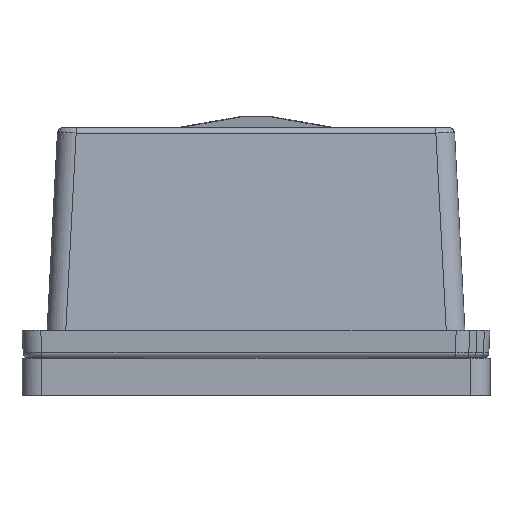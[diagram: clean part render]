
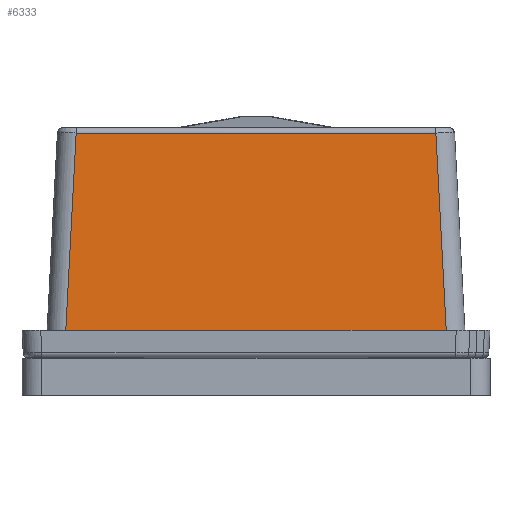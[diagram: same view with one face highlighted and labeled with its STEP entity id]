
A CAD part, left-side view. The second image highlights one B-rep face of the part: STEP entity #6333.
In plain terms, the highlighted planar face has unit normal (-0.999, 0, 0.052).
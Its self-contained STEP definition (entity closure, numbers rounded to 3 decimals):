
#1017=FACE_OUTER_BOUND('',#1417,.T.);
#1417=EDGE_LOOP('',(#5171,#5172,#5173,#5174));
#1862=LINE('',#13908,#2257);
#1893=LINE('',#15264,#2288);
#1894=LINE('',#15267,#2289);
#1895=LINE('',#15268,#2290);
#2257=VECTOR('',#7996,1.);
#2288=VECTOR('',#8195,10.);
#2289=VECTOR('',#8198,1.);
#2290=VECTOR('',#8199,1.);
#2778=VERTEX_POINT('',#13890);
#2780=VERTEX_POINT('',#13900);
#2841=VERTEX_POINT('',#15262);
#2842=VERTEX_POINT('',#15266);
#3557=EDGE_CURVE('',#2780,#2778,#1862,.F.);
#3662=EDGE_CURVE('',#2841,#2778,#1893,.F.);
#3663=EDGE_CURVE('',#2842,#2780,#1894,.F.);
#3664=EDGE_CURVE('',#2841,#2842,#1895,.T.);
#5171=ORIENTED_EDGE('',*,*,#3663,.T.);
#5172=ORIENTED_EDGE('',*,*,#3557,.T.);
#5173=ORIENTED_EDGE('',*,*,#3662,.F.);
#5174=ORIENTED_EDGE('',*,*,#3664,.T.);
#6033=PLANE('',#6908);
#6333=ADVANCED_FACE('',(#1017),#6033,.F.);
#6908=AXIS2_PLACEMENT_3D('',#15265,#8196,#8197);
#7996=DIRECTION('',(0.,-1.,0.));
#8195=DIRECTION('',(-0.052,0.052,-0.997));
#8196=DIRECTION('center_axis',(0.999,0.,-0.052));
#8197=DIRECTION('ref_axis',(0.,-1.,0.));
#8198=DIRECTION('',(-0.052,-0.052,-0.997));
#8199=DIRECTION('',(0.,-1.,0.));
#13890=CARTESIAN_POINT('',(-10.608,9.609,11.416));
#13900=CARTESIAN_POINT('',(-10.608,-9.609,11.416));
#13908=CARTESIAN_POINT('',(-10.608,0.,11.416));
#15262=CARTESIAN_POINT('',(-11.161,10.162,0.871));
#15264=CARTESIAN_POINT('',(-10.608,9.609,11.416));
#15265=CARTESIAN_POINT('Origin',(-10.593,0.,11.7));
#15266=CARTESIAN_POINT('',(-11.161,-10.162,0.871));
#15267=CARTESIAN_POINT('',(-10.885,-9.886,6.132));
#15268=CARTESIAN_POINT('',(-11.161,0.,0.871));
